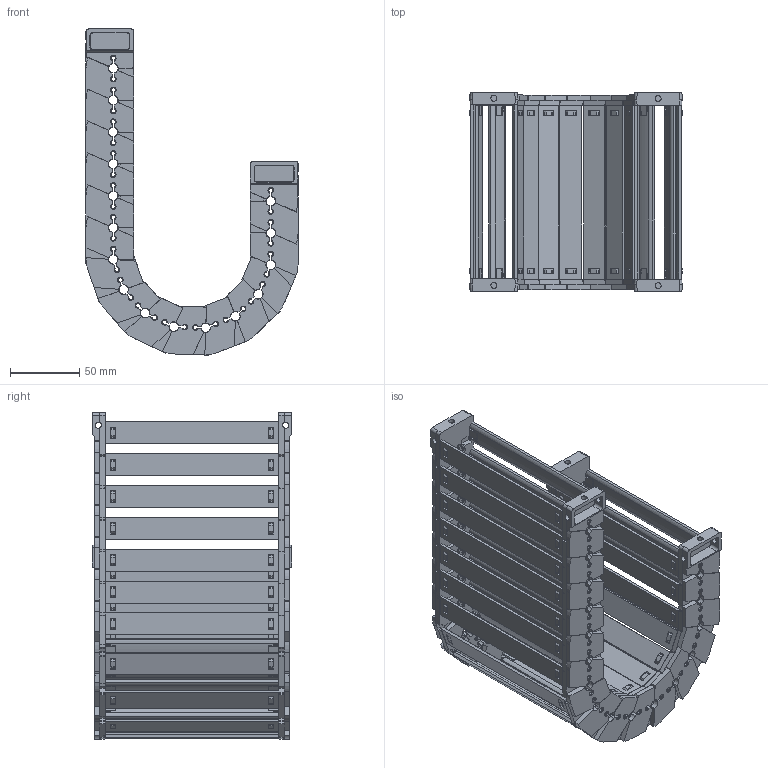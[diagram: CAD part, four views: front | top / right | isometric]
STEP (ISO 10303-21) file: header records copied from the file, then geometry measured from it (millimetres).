
FILE_DESCRIPTION((''),'2;1');
FILE_NAME('JY-28X125-R55_ASM','2026-03-26T08:06:03',('admin'),(''),'CREO PARAMETRIC BY PTC INC, 2021023','CREO PARAMETRIC BY PTC INC, 2021023','');
FILE_SCHEMA(('CONFIG_CONTROL_DESIGN'));
Length unit declared in the file: millimetre
Products named in the file (11): 28XL-L; 25-35XL-YP; 28XL-R; ASM0001_ASM; 28-LTT-A-L; 28-LTT-A-R; 28XL-LTT-A_ASM; 28-LTT-B-L; 28-LTT-B-R; 28XL-LTT-B_ASM; JY-28X125-R55_ASM
Assembly tree (29 placements, depth 3):
  JY-28X125-R55_ASM
    ASM0001_ASM  x15
      28XL-L
      25-35XL-YP
      28XL-R
    28XL-LTT-A_ASM
      28-LTT-A-L
      25-35XL-YP  x2
      28-LTT-A-R
    28XL-LTT-B_ASM
      28-LTT-B-L
      25-35XL-YP  x2
      28-LTT-B-R
Bounding box: 153.11 x 144 x 235.62 mm (x, y, z)
Volume: 391074.2 mm3; surface area: 281529.9 mm2
Topology: 68 solids, 68 shells, 5486 faces, 16300 edges, 10882 vertices
Faces by surface type: plane 3597, cone 973, cylinder 796, bspline 120
Entity records: 29071 total; most frequent: CARTESIAN_POINT 9487, ORIENTED_EDGE 4352, DIRECTION 3649, EDGE_CURVE 2176, VERTEX_POINT 1454, VECTOR 1365, LINE 1365, AXIS2_PLACEMENT_3D 1142
